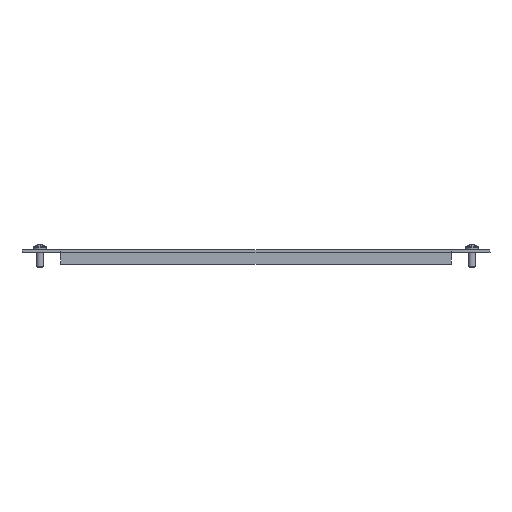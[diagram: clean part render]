
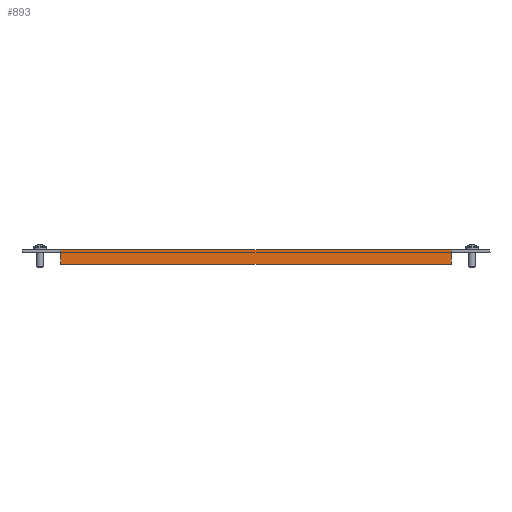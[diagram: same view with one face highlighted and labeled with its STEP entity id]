
A CAD part, front view. The second image highlights one B-rep face of the part: STEP entity #893.
In plain terms, the highlighted planar face has unit normal (0, -1, 0).
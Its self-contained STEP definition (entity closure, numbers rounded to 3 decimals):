
#24 = CARTESIAN_POINT ( 'NONE',  ( 135.5, -299., -2.4 ) ) ;
#31 = VECTOR ( 'NONE', #3248, 1000. ) ;
#166 = VECTOR ( 'NONE', #2431, 1000. ) ;
#238 = LINE ( 'NONE', #1933, #4765 ) ;
#425 = EDGE_CURVE ( 'NONE', #3957, #2237, #4358, .T. ) ;
#821 = EDGE_CURVE ( 'NONE', #1069, #4920, #5317, .T. ) ;
#893 = ADVANCED_FACE ( 'NONE', ( #1930 ), #3171, .T. ) ;
#904 = DIRECTION ( 'NONE',  ( 0., 0., 1. ) ) ;
#963 = CARTESIAN_POINT ( 'NONE',  ( -135.5, -299., 0. ) ) ;
#1062 = DIRECTION ( 'NONE',  ( 1., 0., 0. ) ) ;
#1069 = VERTEX_POINT ( 'NONE', #4652 ) ;
#1191 = CARTESIAN_POINT ( 'NONE',  ( -135.5, -299., -2.4 ) ) ;
#1587 = AXIS2_PLACEMENT_3D ( 'NONE', #4512, #2785, #1062 ) ;
#1762 = CARTESIAN_POINT ( 'NONE',  ( 135.5, -299., -2.4 ) ) ;
#1930 = FACE_OUTER_BOUND ( 'NONE', #2097, .T. ) ;
#1933 = CARTESIAN_POINT ( 'NONE',  ( -135.5, -299., -1.8 ) ) ;
#1980 = LINE ( 'NONE', #4565, #31 ) ;
#2097 = EDGE_LOOP ( 'NONE', ( #2490, #2320, #5198, #5410, #5129, #4958 ) ) ;
#2134 = EDGE_CURVE ( 'NONE', #2486, #3794, #2554, .T. ) ;
#2168 = DIRECTION ( 'NONE',  ( 0., 0., 1. ) ) ;
#2198 = CARTESIAN_POINT ( 'NONE',  ( 0., -299., 0. ) ) ;
#2237 = VERTEX_POINT ( 'NONE', #963 ) ;
#2308 = CARTESIAN_POINT ( 'NONE',  ( 135.5, -299., 0. ) ) ;
#2320 = ORIENTED_EDGE ( 'NONE', *, *, #2134, .T. ) ;
#2431 = DIRECTION ( 'NONE',  ( -1., 0., 0. ) ) ;
#2486 = VERTEX_POINT ( 'NONE', #1762 ) ;
#2490 = ORIENTED_EDGE ( 'NONE', *, *, #2845, .F. ) ;
#2554 = LINE ( 'NONE', #24, #5282 ) ;
#2598 = VECTOR ( 'NONE', #3849, 1000. ) ;
#2785 = DIRECTION ( 'NONE',  ( 0., -1., 0. ) ) ;
#2845 = EDGE_CURVE ( 'NONE', #2486, #1069, #1980, .T. ) ;
#3051 = VECTOR ( 'NONE', #904, 1000. ) ;
#3171 = PLANE ( 'NONE',  #1587 ) ;
#3248 = DIRECTION ( 'NONE',  ( 0., 0., -1. ) ) ;
#3363 = EDGE_CURVE ( 'NONE', #3794, #2237, #3802, .T. ) ;
#3794 = VERTEX_POINT ( 'NONE', #2308 ) ;
#3802 = LINE ( 'NONE', #2198, #2598 ) ;
#3849 = DIRECTION ( 'NONE',  ( -1., 0., 0. ) ) ;
#3957 = VERTEX_POINT ( 'NONE', #1191 ) ;
#4358 = LINE ( 'NONE', #4745, #3051 ) ;
#4443 = EDGE_CURVE ( 'NONE', #4920, #3957, #238, .T. ) ;
#4512 = CARTESIAN_POINT ( 'NONE',  ( 0., -299., 0. ) ) ;
#4565 = CARTESIAN_POINT ( 'NONE',  ( 135.5, -299., -10. ) ) ;
#4652 = CARTESIAN_POINT ( 'NONE',  ( 135.5, -299., -10. ) ) ;
#4745 = CARTESIAN_POINT ( 'NONE',  ( -135.5, -299., 0. ) ) ;
#4765 = VECTOR ( 'NONE', #5321, 1000. ) ;
#4877 = CARTESIAN_POINT ( 'NONE',  ( -135.5, -299., -10. ) ) ;
#4879 = CARTESIAN_POINT ( 'NONE',  ( -135.5, -299., -10. ) ) ;
#4920 = VERTEX_POINT ( 'NONE', #4877 ) ;
#4958 = ORIENTED_EDGE ( 'NONE', *, *, #821, .F. ) ;
#5129 = ORIENTED_EDGE ( 'NONE', *, *, #4443, .F. ) ;
#5198 = ORIENTED_EDGE ( 'NONE', *, *, #3363, .T. ) ;
#5282 = VECTOR ( 'NONE', #2168, 1000. ) ;
#5317 = LINE ( 'NONE', #4879, #166 ) ;
#5321 = DIRECTION ( 'NONE',  ( 0., 0., 1. ) ) ;
#5410 = ORIENTED_EDGE ( 'NONE', *, *, #425, .F. ) ;
